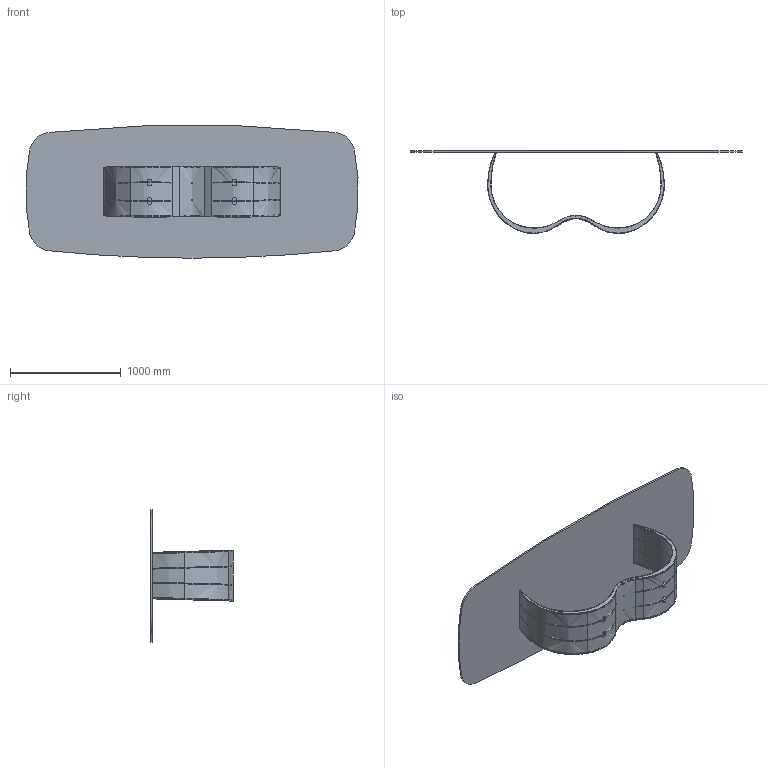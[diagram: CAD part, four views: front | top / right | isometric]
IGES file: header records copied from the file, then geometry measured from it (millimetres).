
Start section: SolidWorks IGES file using analytic representation for surfaces
Global section: file name: Y:\eforma\TECNICO\SOLIDWORKS\E-FORMA\1-TAVOLI\ALISEI 240-300\02 parts\AI44G_Alisei_300x120_Glass Shaped.IGS; native system: SolidWorks 2022; preprocessor: SolidWorks 2022; author: eforma.tech; date: 240801.145156; units: millimetre
Bounding box: 2991.72 x 746 x 1192.61 mm (x, y, z)
Volume: 57819207.8 mm3; surface area: 12508918.5 mm2
Topology: 17 solids, 17 shells, 880 faces, 2478 edges, 1632 vertices
Faces by surface type: bspline 397, plane 336, revolution 147
